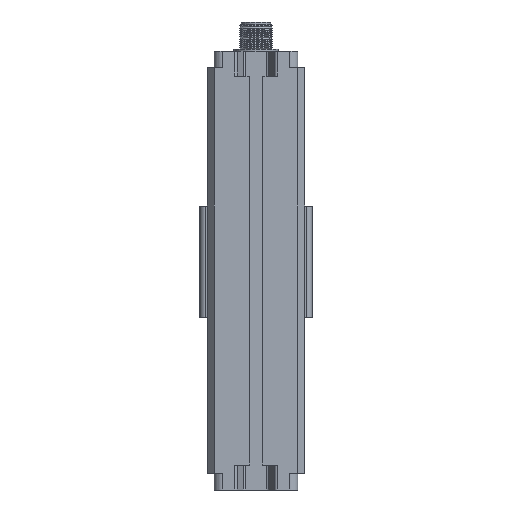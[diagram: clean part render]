
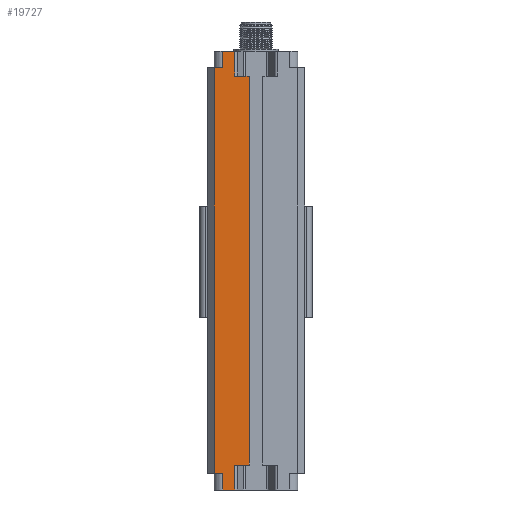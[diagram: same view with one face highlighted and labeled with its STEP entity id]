
A CAD part, front view. The second image highlights one B-rep face of the part: STEP entity #19727.
In plain terms, the highlighted planar face has unit normal (0, -1, 0).
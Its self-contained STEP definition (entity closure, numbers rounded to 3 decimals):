
#277 = VECTOR ( 'NONE', #18221, 1000. ) ;
#839 = DIRECTION ( 'NONE',  ( 0., -1., 0. ) ) ;
#855 = ORIENTED_EDGE ( 'NONE', *, *, #17617, .T. ) ;
#860 = VERTEX_POINT ( 'NONE', #18331 ) ;
#1077 = CARTESIAN_POINT ( 'NONE',  ( -12., 0., 123. ) ) ;
#1271 = CARTESIAN_POINT ( 'NONE',  ( -2.5, 0., -26. ) ) ;
#1305 = VERTEX_POINT ( 'NONE', #16287 ) ;
#1336 = DIRECTION ( 'NONE',  ( -1., 0., 0. ) ) ;
#1728 = VECTOR ( 'NONE', #6211, 1000. ) ;
#1824 = VECTOR ( 'NONE', #15523, 1000. ) ;
#2276 = CARTESIAN_POINT ( 'NONE',  ( -2.5, 0., 114. ) ) ;
#2902 = ORIENTED_EDGE ( 'NONE', *, *, #12531, .F. ) ;
#3387 = ORIENTED_EDGE ( 'NONE', *, *, #18836, .T. ) ;
#3524 = VECTOR ( 'NONE', #9912, 1000. ) ;
#3661 = EDGE_CURVE ( 'NONE', #1305, #14904, #9395, .T. ) ;
#4085 = DIRECTION ( 'NONE',  ( 1., 0., 0. ) ) ;
#4360 = DIRECTION ( 'NONE',  ( -1., 0., 0. ) ) ;
#4387 = ORIENTED_EDGE ( 'NONE', *, *, #4653, .T. ) ;
#4480 = EDGE_CURVE ( 'NONE', #16421, #17258, #17076, .T. ) ;
#4560 = VERTEX_POINT ( 'NONE', #9906 ) ;
#4566 = LINE ( 'NONE', #5352, #20721 ) ;
#4653 = EDGE_CURVE ( 'NONE', #19179, #16791, #7432, .T. ) ;
#5022 = DIRECTION ( 'NONE',  ( 0., 0., 1. ) ) ;
#5047 = VERTEX_POINT ( 'NONE', #19301 ) ;
#5230 = CARTESIAN_POINT ( 'NONE',  ( -12., 0., 117. ) ) ;
#5352 = CARTESIAN_POINT ( 'NONE',  ( -12., 0., -32. ) ) ;
#5638 = PLANE ( 'NONE',  #17622 ) ;
#6076 = CARTESIAN_POINT ( 'NONE',  ( -7.657, 0., -26. ) ) ;
#6131 = CARTESIAN_POINT ( 'NONE',  ( -12., 0., 123. ) ) ;
#6187 = VECTOR ( 'NONE', #4360, 1000. ) ;
#6211 = DIRECTION ( 'NONE',  ( 0., 0., -1. ) ) ;
#6840 = CARTESIAN_POINT ( 'NONE',  ( -2.5, 0., -106. ) ) ;
#7140 = EDGE_CURVE ( 'NONE', #13149, #11818, #4566, .T. ) ;
#7432 = LINE ( 'NONE', #13530, #19068 ) ;
#7537 = LINE ( 'NONE', #15826, #8281 ) ;
#8029 = ORIENTED_EDGE ( 'NONE', *, *, #15071, .T. ) ;
#8281 = VECTOR ( 'NONE', #5022, 1000. ) ;
#8307 = EDGE_CURVE ( 'NONE', #16791, #4560, #8828, .T. ) ;
#8828 = LINE ( 'NONE', #5230, #3524 ) ;
#8992 = CARTESIAN_POINT ( 'NONE',  ( -12., 0., -35. ) ) ;
#9395 = LINE ( 'NONE', #13676, #277 ) ;
#9479 = VECTOR ( 'NONE', #18084, 1000. ) ;
#9906 = CARTESIAN_POINT ( 'NONE',  ( -15., 0., 117. ) ) ;
#9912 = DIRECTION ( 'NONE',  ( -1., 0., 0. ) ) ;
#10038 = FACE_OUTER_BOUND ( 'NONE', #12658, .T. ) ;
#10168 = ORIENTED_EDGE ( 'NONE', *, *, #17202, .T. ) ;
#10542 = CARTESIAN_POINT ( 'NONE',  ( -2.5, 0., -106. ) ) ;
#10598 = VECTOR ( 'NONE', #12627, 1000. ) ;
#10895 = CARTESIAN_POINT ( 'NONE',  ( -7.657, 0., -29. ) ) ;
#11370 = ORIENTED_EDGE ( 'NONE', *, *, #4480, .F. ) ;
#11572 = CARTESIAN_POINT ( 'NONE',  ( -12., 0., -29. ) ) ;
#11739 = CARTESIAN_POINT ( 'NONE',  ( -7.657, 0., 123. ) ) ;
#11818 = VERTEX_POINT ( 'NONE', #11572 ) ;
#11910 = DIRECTION ( 'NONE',  ( 0., 0., -1. ) ) ;
#12074 = LINE ( 'NONE', #10895, #6187 ) ;
#12531 = EDGE_CURVE ( 'NONE', #11818, #5047, #12074, .T. ) ;
#12627 = DIRECTION ( 'NONE',  ( -1., 0., 0. ) ) ;
#12658 = EDGE_LOOP ( 'NONE', ( #855, #2902, #19624, #8029, #3387, #10168, #11370, #14696, #20432, #13167, #4387, #17925 ) ) ;
#12685 = DIRECTION ( 'NONE',  ( 1., 0., 0. ) ) ;
#12868 = LINE ( 'NONE', #1077, #10598 ) ;
#13149 = VERTEX_POINT ( 'NONE', #17598 ) ;
#13167 = ORIENTED_EDGE ( 'NONE', *, *, #18252, .T. ) ;
#13530 = CARTESIAN_POINT ( 'NONE',  ( -12., 0., 120. ) ) ;
#13676 = CARTESIAN_POINT ( 'NONE',  ( -7.657, 0., 120. ) ) ;
#14683 = LINE ( 'NONE', #1271, #15926 ) ;
#14696 = ORIENTED_EDGE ( 'NONE', *, *, #15558, .T. ) ;
#14904 = VERTEX_POINT ( 'NONE', #11739 ) ;
#15071 = EDGE_CURVE ( 'NONE', #13149, #860, #15266, .T. ) ;
#15266 = LINE ( 'NONE', #8992, #1824 ) ;
#15488 = LINE ( 'NONE', #20522, #18502 ) ;
#15523 = DIRECTION ( 'NONE',  ( 1., 0., 0. ) ) ;
#15558 = EDGE_CURVE ( 'NONE', #16421, #1305, #15488, .T. ) ;
#15826 = CARTESIAN_POINT ( 'NONE',  ( -7.657, 0., -32. ) ) ;
#15926 = VECTOR ( 'NONE', #12685, 1000. ) ;
#16064 = CARTESIAN_POINT ( 'NONE',  ( -12., 0., 117. ) ) ;
#16287 = CARTESIAN_POINT ( 'NONE',  ( -7.657, 0., 114. ) ) ;
#16396 = DIRECTION ( 'NONE',  ( 0., 0., 1. ) ) ;
#16421 = VERTEX_POINT ( 'NONE', #2276 ) ;
#16791 = VERTEX_POINT ( 'NONE', #16064 ) ;
#17076 = LINE ( 'NONE', #6840, #9479 ) ;
#17202 = EDGE_CURVE ( 'NONE', #17699, #17258, #14683, .T. ) ;
#17258 = VERTEX_POINT ( 'NONE', #19604 ) ;
#17598 = CARTESIAN_POINT ( 'NONE',  ( -12., 0., -35. ) ) ;
#17617 = EDGE_CURVE ( 'NONE', #4560, #5047, #20921, .T. ) ;
#17622 = AXIS2_PLACEMENT_3D ( 'NONE', #10542, #839, #4085 ) ;
#17699 = VERTEX_POINT ( 'NONE', #6076 ) ;
#17925 = ORIENTED_EDGE ( 'NONE', *, *, #8307, .T. ) ;
#18084 = DIRECTION ( 'NONE',  ( 0., 0., -1. ) ) ;
#18221 = DIRECTION ( 'NONE',  ( 0., 0., 1. ) ) ;
#18252 = EDGE_CURVE ( 'NONE', #14904, #19179, #12868, .T. ) ;
#18331 = CARTESIAN_POINT ( 'NONE',  ( -7.657, 0., -35. ) ) ;
#18502 = VECTOR ( 'NONE', #1336, 1000. ) ;
#18836 = EDGE_CURVE ( 'NONE', #860, #17699, #7537, .T. ) ;
#19068 = VECTOR ( 'NONE', #11910, 1000. ) ;
#19179 = VERTEX_POINT ( 'NONE', #6131 ) ;
#19213 = CARTESIAN_POINT ( 'NONE',  ( -15., 0., -106. ) ) ;
#19301 = CARTESIAN_POINT ( 'NONE',  ( -15., 0., -29. ) ) ;
#19604 = CARTESIAN_POINT ( 'NONE',  ( -2.5, 0., -26. ) ) ;
#19624 = ORIENTED_EDGE ( 'NONE', *, *, #7140, .F. ) ;
#19727 = ADVANCED_FACE ( 'NONE', ( #10038 ), #5638, .T. ) ;
#20432 = ORIENTED_EDGE ( 'NONE', *, *, #3661, .T. ) ;
#20522 = CARTESIAN_POINT ( 'NONE',  ( -2.5, 0., 114. ) ) ;
#20721 = VECTOR ( 'NONE', #16396, 1000. ) ;
#20921 = LINE ( 'NONE', #19213, #1728 ) ;
